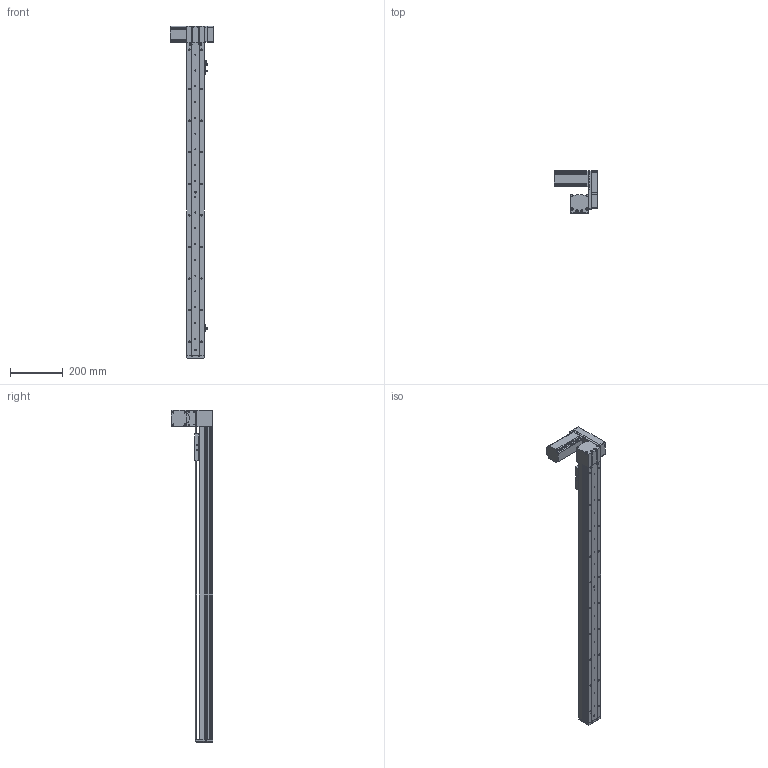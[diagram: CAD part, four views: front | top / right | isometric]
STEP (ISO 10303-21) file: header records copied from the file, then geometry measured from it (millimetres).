
FILE_DESCRIPTION (( 'STEP AP214' ), '1' );
FILE_NAME ('KSD68BS-S1000-MLU-CM.STEP', '2019-08-22T03:05:34', ( '微软用户' ), ( '微软中国' ), 'SwSTEP 2.0', 'SolidWorks 2014', '' );
FILE_SCHEMA (( 'AUTOMOTIVE_DESIGN' ));
Length unit declared in the file: millimetre
Products named in the file (11): 68宽单导轨半封闭同步带主动轮座左; 68单导轨同步带半封闭端板; KSD68BS 1000俴最裔啣圉猾敕; 覜茼え68遵圉猾敕; KSD68BS半封闭同步带传动导轨座; U倰嫖萇EEㄜSX672; 台达ECMA－C20604AS伺服电机（400W); KSD68BS 1000俴最菁啣圉猾敕; KSD68BS-S1000-MLU-CM; 悵誘欶奻狟殏; 68宽马达安装板连板上折同步带
Assembly tree (12 placements, depth 2):
  KSD68BS-S1000-MLU-CM
    KSD68BS 1000俴最菁啣圉猾敕
    台达ECMA－C20604AS伺服电机（400W)
    U倰嫖萇EEㄜSX672  x3
    KSD68BS半封闭同步带传动导轨座
    覜茼え68遵圉猾敕
    KSD68BS 1000俴最裔啣圉猾敕
    68单导轨同步带半封闭端板
    68宽单导轨半封闭同步带主动轮座左
    68宽马达安装板连板上折同步带
    悵誘欶奻狟殏
Bounding box: 167.2 x 159.5 x 1262 mm (x, y, z)
Volume: 2371033.5 mm3; surface area: 836771.9 mm2
Topology: 13 solids, 13 shells, 1446 faces, 4170 edges, 2714 vertices
Faces by surface type: cylinder 708, plane 655, cone 83
Entity records: 54006 total; most frequent: CARTESIAN_POINT 10266, ORIENTED_EDGE 7092, DIRECTION 7032, EDGE_CURVE 3546, AXIS2_PLACEMENT_3D 2544, VERTEX_POINT 2338, LINE 1944, VECTOR 1944
